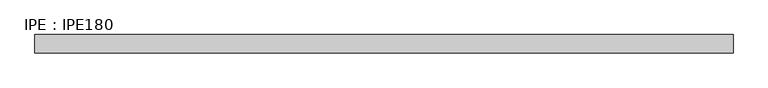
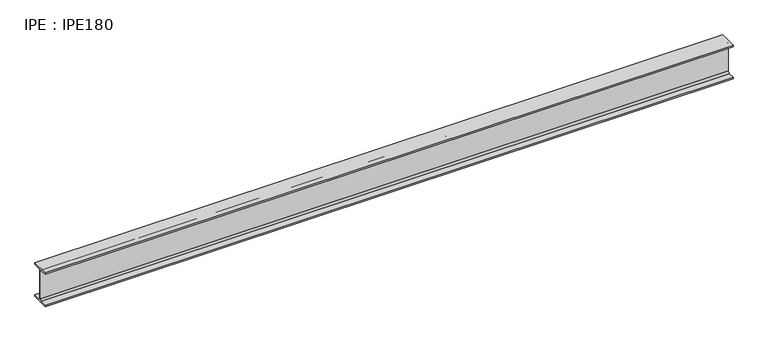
"""IFC4 building model written with IfcOpenShell, lengths in millimetres: beam geometry, IPE : IPE180."""

from ifc_helpers import new_model, si_unit, point, frame, frame_2d, origin, place, context, project, spatial, polyline, circle_curve, trimmed, segment, composite_curve, outline, extrude, source, transform, mapped, element, save


def ipe_ipe180_58f06dd5(model_context):
    return source(origin(), model_context, "Body", "SweptSolid", [
        extrude(outline(composite_curve([segment(polyline([(45.5, -82.0), (45.5, -90.0), (-45.5, -90.0), (-45.5, -82.0), (-11.65, -82.0)]), True, "CONTINUOUS"), segment(trimmed(circle_curve(frame_2d((-11.65, -73.0)), 9.0), [point((-11.65, -82.0))], [point((-2.65, -73.0))], True, "CARTESIAN"), True, "CONTINUOUS"), segment(polyline([(-2.65, -73.0), (-2.65, 73.0)]), True, "CONTINUOUS"), segment(trimmed(circle_curve(frame_2d((-11.65, 73.0)), 9.0), [point((-2.65, 73.0))], [point((-11.65, 82.0))], True, "CARTESIAN"), True, "CONTINUOUS"), segment(polyline([(-11.65, 82.0), (-45.5, 82.0), (-45.5, 90.0), (45.5, 90.0), (45.5, 82.0), (11.65, 82.0)]), True, "CONTINUOUS"), segment(trimmed(circle_curve(frame_2d((11.65, 73.0)), 9.0), [point((11.65, 82.0))], [point((2.65, 73.0))], True, "CARTESIAN"), True, "CONTINUOUS"), segment(polyline([(2.65, 73.0), (2.65, -73.0)]), True, "CONTINUOUS"), segment(trimmed(circle_curve(frame_2d((11.65, -73.0)), 9.0), [point((2.65, -73.0))], [point((11.65, -82.0))], True, "CARTESIAN"), True, "CONTINUOUS"), segment(polyline([(11.65, -82.0), (45.5, -82.0)]), True, "CONTINUOUS")], self_intersect=False)), frame((-1761.0832252, 0.0, 0.0), z_axis=(1.0, 0.0, 0.0), x_axis=(0.0, 1.0, 0.0)), (0.0, 0.0, 1.0), 3483.4133691),
    ])


if __name__ == "__main__":
    model = new_model("IFC4")
    model_context = context("Model", 3, world=origin())
    ifc_project = project(units=[si_unit("LENGTHUNIT", "METRE", prefix="MILLI")], contexts=[model_context])
    site = spatial("IfcSite", under=ifc_project)
    building = spatial("IfcBuilding", under=site)
    placement = place(None, origin())
    ipe_ipe180_shape = ipe_ipe180_58f06dd5(model_context)
    element("IfcBeam", 1, ObjectType="IPE : IPE180", at=placement, inside=building, context=model_context, shape_type="MappedRepresentation", body=[
        mapped(ipe_ipe180_shape, transform((0.0, 0.0, 0.0), x_axis=(1.0, 0.0, 0.0), y_axis=(0.0, 1.0, 0.0), z_axis=(0.0, 0.0, 1.0))),
    ])
    save(model, "model.ifc")
